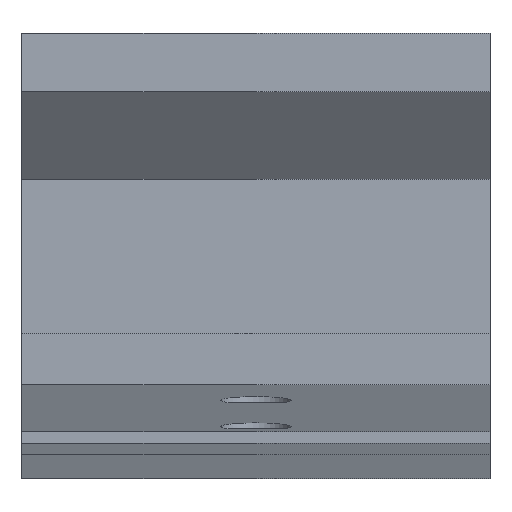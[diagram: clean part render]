
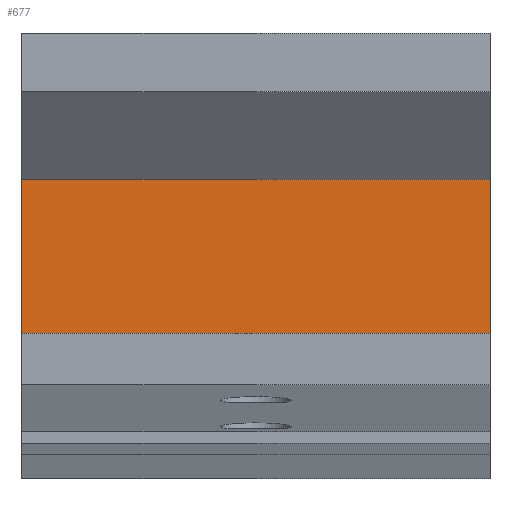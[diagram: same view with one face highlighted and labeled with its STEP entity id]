
A CAD part, top view. The second image highlights one B-rep face of the part: STEP entity #677.
In plain terms, the highlighted planar face has unit normal (0, 0, 1).
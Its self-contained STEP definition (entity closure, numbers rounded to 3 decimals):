
#32 = PLANE('',#33);
#33 = AXIS2_PLACEMENT_3D('',#34,#35,#36);
#34 = CARTESIAN_POINT('',(1.,-1.855,13.25));
#35 = DIRECTION('',(1.,-0.,-0.));
#36 = DIRECTION('',(0.,0.,-1.));
#281 = VERTEX_POINT('',#282);
#282 = CARTESIAN_POINT('',(1.,-3.193,-9.95));
#296 = PLANE('',#297);
#297 = AXIS2_PLACEMENT_3D('',#298,#299,#300);
#298 = CARTESIAN_POINT('',(1.,3.87,57.25));
#299 = DIRECTION('',(-0.,-0.995,0.105));
#300 = DIRECTION('',(0.,0.105,0.995));
#308 = EDGE_CURVE('',#281,#309,#311,.T.);
#309 = VERTEX_POINT('',#310);
#310 = CARTESIAN_POINT('',(1.,4.457,-9.95));
#311 = SURFACE_CURVE('',#312,(#316,#323),.PCURVE_S1.);
#312 = LINE('',#313,#314);
#313 = CARTESIAN_POINT('',(1.,-3.777,-9.95));
#314 = VECTOR('',#315,1.);
#315 = DIRECTION('',(-0.,1.,-0.));
#316 = PCURVE('',#32,#317);
#317 = DEFINITIONAL_REPRESENTATION('',(#318),#322);
#318 = LINE('',#319,#320);
#319 = CARTESIAN_POINT('',(23.2,-1.923));
#320 = VECTOR('',#321,1.);
#321 = DIRECTION('',(-0.,1.));
#322 = ( GEOMETRIC_REPRESENTATION_CONTEXT(2) 
PARAMETRIC_REPRESENTATION_CONTEXT() REPRESENTATION_CONTEXT('2D SPACE',''
  ) );
#323 = PCURVE('',#324,#329);
#324 = PLANE('',#325);
#325 = AXIS2_PLACEMENT_3D('',#326,#327,#328);
#326 = CARTESIAN_POINT('',(1.,-3.777,-9.95));
#327 = DIRECTION('',(-0.,-0.,-1.));
#328 = DIRECTION('',(0.,-1.,0.));
#329 = DEFINITIONAL_REPRESENTATION('',(#330),#334);
#330 = LINE('',#331,#332);
#331 = CARTESIAN_POINT('',(-0.,0.));
#332 = VECTOR('',#333,1.);
#333 = DIRECTION('',(-1.,0.));
#334 = ( GEOMETRIC_REPRESENTATION_CONTEXT(2) 
PARAMETRIC_REPRESENTATION_CONTEXT() REPRESENTATION_CONTEXT('2D SPACE',''
  ) );
#352 = PLANE('',#353);
#353 = AXIS2_PLACEMENT_3D('',#354,#355,#356);
#354 = CARTESIAN_POINT('',(1.,29.5,57.25));
#355 = DIRECTION('',(-0.,-0.937,0.349));
#356 = DIRECTION('',(0.,0.349,0.937));
#547 = PLANE('',#548);
#548 = AXIS2_PLACEMENT_3D('',#549,#550,#551);
#549 = CARTESIAN_POINT('',(21.,-1.855,13.25));
#550 = DIRECTION('',(1.,-0.,-0.));
#551 = DIRECTION('',(0.,0.,-1.));
#635 = VERTEX_POINT('',#636);
#636 = CARTESIAN_POINT('',(21.,4.457,-9.95));
#657 = EDGE_CURVE('',#635,#309,#658,.T.);
#658 = SURFACE_CURVE('',#659,(#663,#670),.PCURVE_S1.);
#659 = LINE('',#660,#661);
#660 = CARTESIAN_POINT('',(1.,4.457,-9.95));
#661 = VECTOR('',#662,1.);
#662 = DIRECTION('',(-1.,-0.,-0.));
#663 = PCURVE('',#352,#664);
#664 = DEFINITIONAL_REPRESENTATION('',(#665),#669);
#665 = LINE('',#666,#667);
#666 = CARTESIAN_POINT('',(-71.715,0.));
#667 = VECTOR('',#668,1.);
#668 = DIRECTION('',(-0.,1.));
#669 = ( GEOMETRIC_REPRESENTATION_CONTEXT(2) 
PARAMETRIC_REPRESENTATION_CONTEXT() REPRESENTATION_CONTEXT('2D SPACE',''
  ) );
#670 = PCURVE('',#324,#671);
#671 = DEFINITIONAL_REPRESENTATION('',(#672),#676);
#672 = LINE('',#673,#674);
#673 = CARTESIAN_POINT('',(-8.234,0.));
#674 = VECTOR('',#675,1.);
#675 = DIRECTION('',(-0.,1.));
#676 = ( GEOMETRIC_REPRESENTATION_CONTEXT(2) 
PARAMETRIC_REPRESENTATION_CONTEXT() REPRESENTATION_CONTEXT('2D SPACE',''
  ) );
#677 = ADVANCED_FACE('',(#678),#324,.F.);
#678 = FACE_BOUND('',#679,.T.);
#679 = EDGE_LOOP('',(#680,#681,#704,#725));
#680 = ORIENTED_EDGE('',*,*,#308,.F.);
#681 = ORIENTED_EDGE('',*,*,#682,.F.);
#682 = EDGE_CURVE('',#683,#281,#685,.T.);
#683 = VERTEX_POINT('',#684);
#684 = CARTESIAN_POINT('',(21.,-3.193,-9.95));
#685 = SURFACE_CURVE('',#686,(#690,#697),.PCURVE_S1.);
#686 = LINE('',#687,#688);
#687 = CARTESIAN_POINT('',(1.,-3.193,-9.95));
#688 = VECTOR('',#689,1.);
#689 = DIRECTION('',(-1.,-0.,-0.));
#690 = PCURVE('',#324,#691);
#691 = DEFINITIONAL_REPRESENTATION('',(#692),#696);
#692 = LINE('',#693,#694);
#693 = CARTESIAN_POINT('',(-0.584,0.));
#694 = VECTOR('',#695,1.);
#695 = DIRECTION('',(-0.,1.));
#696 = ( GEOMETRIC_REPRESENTATION_CONTEXT(2) 
PARAMETRIC_REPRESENTATION_CONTEXT() REPRESENTATION_CONTEXT('2D SPACE',''
  ) );
#697 = PCURVE('',#296,#698);
#698 = DEFINITIONAL_REPRESENTATION('',(#699),#703);
#699 = LINE('',#700,#701);
#700 = CARTESIAN_POINT('',(-67.57,0.));
#701 = VECTOR('',#702,1.);
#702 = DIRECTION('',(-0.,1.));
#703 = ( GEOMETRIC_REPRESENTATION_CONTEXT(2) 
PARAMETRIC_REPRESENTATION_CONTEXT() REPRESENTATION_CONTEXT('2D SPACE',''
  ) );
#704 = ORIENTED_EDGE('',*,*,#705,.T.);
#705 = EDGE_CURVE('',#683,#635,#706,.T.);
#706 = SURFACE_CURVE('',#707,(#711,#718),.PCURVE_S1.);
#707 = LINE('',#708,#709);
#708 = CARTESIAN_POINT('',(21.,-3.777,-9.95));
#709 = VECTOR('',#710,1.);
#710 = DIRECTION('',(-0.,1.,-0.));
#711 = PCURVE('',#324,#712);
#712 = DEFINITIONAL_REPRESENTATION('',(#713),#717);
#713 = LINE('',#714,#715);
#714 = CARTESIAN_POINT('',(-0.,-20.));
#715 = VECTOR('',#716,1.);
#716 = DIRECTION('',(-1.,0.));
#717 = ( GEOMETRIC_REPRESENTATION_CONTEXT(2) 
PARAMETRIC_REPRESENTATION_CONTEXT() REPRESENTATION_CONTEXT('2D SPACE',''
  ) );
#718 = PCURVE('',#547,#719);
#719 = DEFINITIONAL_REPRESENTATION('',(#720),#724);
#720 = LINE('',#721,#722);
#721 = CARTESIAN_POINT('',(23.2,-1.923));
#722 = VECTOR('',#723,1.);
#723 = DIRECTION('',(-0.,1.));
#724 = ( GEOMETRIC_REPRESENTATION_CONTEXT(2) 
PARAMETRIC_REPRESENTATION_CONTEXT() REPRESENTATION_CONTEXT('2D SPACE',''
  ) );
#725 = ORIENTED_EDGE('',*,*,#657,.T.);
